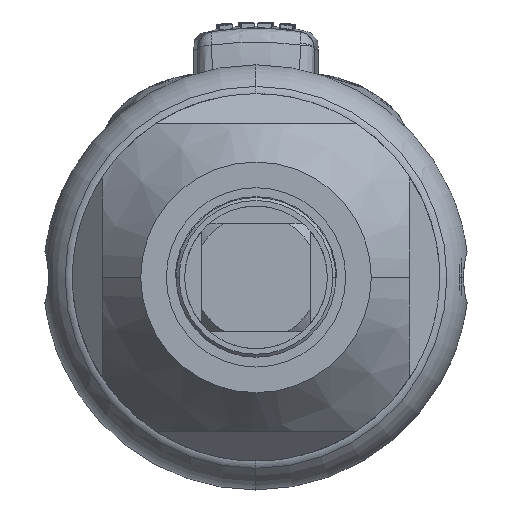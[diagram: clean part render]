
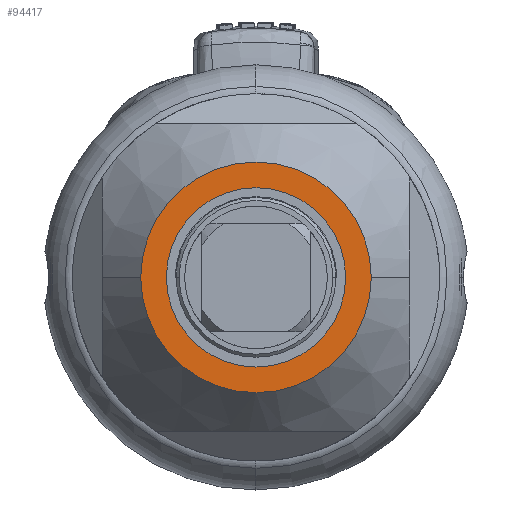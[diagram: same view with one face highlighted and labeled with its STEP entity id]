
A CAD part, front view. The second image highlights one B-rep face of the part: STEP entity #94417.
In plain terms, the highlighted planar face has unit normal (0, -1, 0).
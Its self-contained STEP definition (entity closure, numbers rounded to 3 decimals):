
#1761 = CARTESIAN_POINT ( 'NONE',  ( 0., -59.7, 0. ) ) ;
#2533 = VERTEX_POINT ( 'NONE', #25877 ) ;
#7560 = DIRECTION ( 'NONE',  ( 0., 0., 1. ) ) ;
#12078 = AXIS2_PLACEMENT_3D ( 'NONE', #69298, #53893, #7560 ) ;
#13248 = VERTEX_POINT ( 'NONE', #89447 ) ;
#15271 = DIRECTION ( 'NONE',  ( -1., 0., 0. ) ) ;
#17803 = DIRECTION ( 'NONE',  ( 0., 0., -1. ) ) ;
#21536 = VERTEX_POINT ( 'NONE', #39335 ) ;
#21916 = CARTESIAN_POINT ( 'NONE',  ( 0., -59.7, 0. ) ) ;
#24015 = DIRECTION ( 'NONE',  ( 0., -1., 0. ) ) ;
#24499 = DIRECTION ( 'NONE',  ( 0., 0., -1. ) ) ;
#24994 = PLANE ( 'NONE',  #44997 ) ;
#25285 = EDGE_CURVE ( 'NONE', #21536, #13248, #56865, .T. ) ;
#25744 = DIRECTION ( 'NONE',  ( 0., -1., 0. ) ) ;
#25877 = CARTESIAN_POINT ( 'NONE',  ( 0., -59.7, 10.5 ) ) ;
#29714 = EDGE_LOOP ( 'NONE', ( #53121, #53144 ) ) ;
#30682 = DIRECTION ( 'NONE',  ( 0., 1., 0. ) ) ;
#33806 = EDGE_CURVE ( 'NONE', #42585, #2533, #97575, .T. ) ;
#34049 = ORIENTED_EDGE ( 'NONE', *, *, #33806, .F. ) ;
#37643 = EDGE_CURVE ( 'NONE', #2533, #42585, #55036, .T. ) ;
#38941 = CARTESIAN_POINT ( 'NONE',  ( 0., -59.7, 0. ) ) ;
#39335 = CARTESIAN_POINT ( 'NONE',  ( 13.5, -59.7, 0. ) ) ;
#41188 = CARTESIAN_POINT ( 'NONE',  ( 0., -59.7, 0. ) ) ;
#42585 = VERTEX_POINT ( 'NONE', #47901 ) ;
#44997 = AXIS2_PLACEMENT_3D ( 'NONE', #38941, #24015, #24499 ) ;
#47901 = CARTESIAN_POINT ( 'NONE',  ( 0., -59.7, -10.5 ) ) ;
#53121 = ORIENTED_EDGE ( 'NONE', *, *, #98074, .F. ) ;
#53144 = ORIENTED_EDGE ( 'NONE', *, *, #25285, .F. ) ;
#53893 = DIRECTION ( 'NONE',  ( 0., -1., 0. ) ) ;
#54629 = AXIS2_PLACEMENT_3D ( 'NONE', #41188, #25744, #17803 ) ;
#55036 = CIRCLE ( 'NONE', #12078, 10.5 ) ;
#56865 = CIRCLE ( 'NONE', #61649, 13.5 ) ;
#61649 = AXIS2_PLACEMENT_3D ( 'NONE', #21916, #67745, #98135 ) ;
#67745 = DIRECTION ( 'NONE',  ( 0., 1., 0. ) ) ;
#69298 = CARTESIAN_POINT ( 'NONE',  ( 0., -59.7, 0. ) ) ;
#71168 = EDGE_LOOP ( 'NONE', ( #88545, #34049 ) ) ;
#76810 = FACE_OUTER_BOUND ( 'NONE', #29714, .T. ) ;
#83311 = AXIS2_PLACEMENT_3D ( 'NONE', #1761, #30682, #15271 ) ;
#88545 = ORIENTED_EDGE ( 'NONE', *, *, #37643, .F. ) ;
#89447 = CARTESIAN_POINT ( 'NONE',  ( -13.5, -59.7, 0. ) ) ;
#92282 = FACE_BOUND ( 'NONE', #71168, .T. ) ;
#94417 = ADVANCED_FACE ( 'NONE', ( #92282, #76810 ), #24994, .T. ) ;
#96029 = CIRCLE ( 'NONE', #83311, 13.5 ) ;
#97575 = CIRCLE ( 'NONE', #54629, 10.5 ) ;
#98074 = EDGE_CURVE ( 'NONE', #13248, #21536, #96029, .T. ) ;
#98135 = DIRECTION ( 'NONE',  ( 1., 0., 0. ) ) ;
